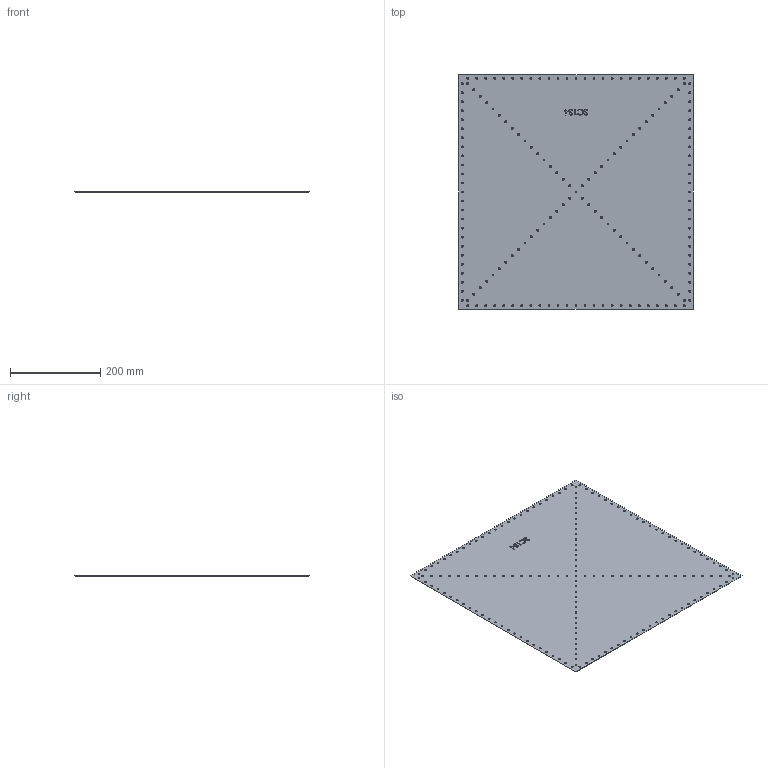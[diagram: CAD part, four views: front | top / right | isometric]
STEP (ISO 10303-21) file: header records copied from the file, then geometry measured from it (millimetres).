
FILE_DESCRIPTION (( 'STEP AP214' ), '1' );
FILE_NAME ('SC134.STEP', '2016-02-26T10:47:31', ( '' ), ( '' ), 'SwSTEP 2.0', 'SolidWorks 2012', '' );
FILE_SCHEMA (( 'AUTOMOTIVE_DESIGN' ));
Length unit declared in the file: millimetre
Products named in the file (1): SC134
Bounding box: 520 x 520 x 2 mm (x, y, z)
Volume: 534845.4 mm3; surface area: 543226.8 mm2
Topology: 1 solids, 1 shells, 752 faces, 1894 edges, 1150 vertices
Faces by surface type: cone 340, cylinder 336, plane 38, bspline 38
Entity records: 25186 total; most frequent: CARTESIAN_POINT 5931, DIRECTION 4262, ORIENTED_EDGE 3788, EDGE_CURVE 1894, AXIS2_PLACEMENT_3D 1729, VERTEX_POINT 1150, EDGE_LOOP 1096, CIRCLE 1014
